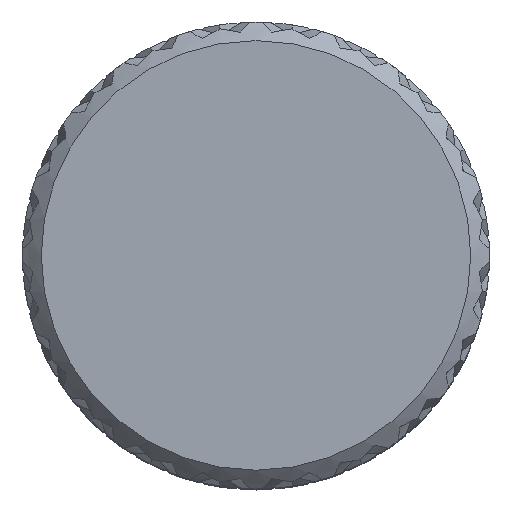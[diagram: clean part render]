
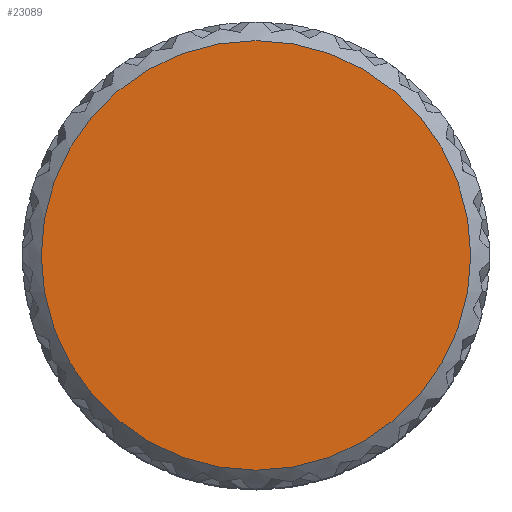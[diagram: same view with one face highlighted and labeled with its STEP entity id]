
A CAD part, top view. The second image highlights one B-rep face of the part: STEP entity #23089.
In plain terms, the highlighted planar face has unit normal (0, 0, 1).
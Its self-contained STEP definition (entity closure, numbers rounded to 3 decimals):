
#1667=PLANE('',#23789);
#3327=FACE_OUTER_BOUND('',#4981,.T.);
#4981=EDGE_LOOP('',(#21174));
#5104=CIRCLE('',#23779,23.);
#10494=VERTEX_POINT('',#75850);
#14008=EDGE_CURVE('',#10494,#10494,#5104,.T.);
#21174=ORIENTED_EDGE('',*,*,#14008,.F.);
#23089=ADVANCED_FACE('',(#3327),#1667,.T.);
#23779=AXIS2_PLACEMENT_3D('',#75852,#25431,#25432);
#23789=AXIS2_PLACEMENT_3D('',#77954,#25453,#25454);
#25431=DIRECTION('center_axis',(0.,0.,-1.));
#25432=DIRECTION('ref_axis',(-1.,0.,0.));
#25453=DIRECTION('center_axis',(0.,0.,1.));
#25454=DIRECTION('ref_axis',(1.,0.,0.));
#75850=CARTESIAN_POINT('',(23.,0.,55.));
#75852=CARTESIAN_POINT('Origin',(0.,0.,55.));
#77954=CARTESIAN_POINT('Origin',(0.,0.,55.));
